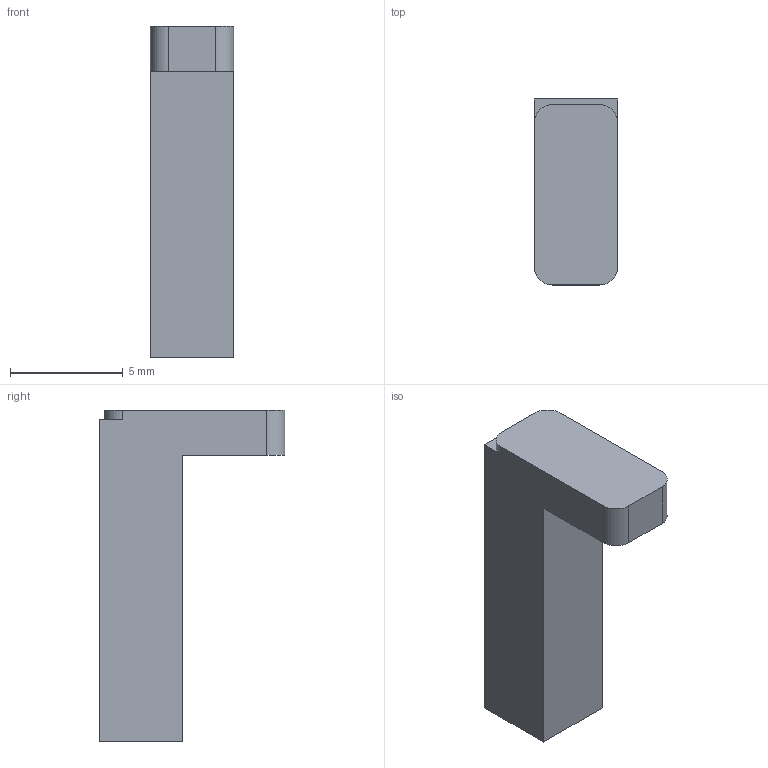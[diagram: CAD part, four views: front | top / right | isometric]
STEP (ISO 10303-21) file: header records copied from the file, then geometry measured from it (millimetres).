
FILE_DESCRIPTION(('Open CASCADE Model'),'2;1');
FILE_NAME('Open CASCADE Shape Model','2026-09-17T20:02:03',('Author'),( 'Open CASCADE'),'Open CASCADE STEP processor 7.7','Open CASCADE 7.7' ,'Unknown');
FILE_SCHEMA(('AUTOMOTIVE_DESIGN { 1 0 10303 214 1 1 1 1 }'));
Length unit declared in the file: millimetre
Products named in the file (1): Open CASCADE STEP translator 7.7 4
Bounding box: 3.7 x 8.25 x 14.7 mm (x, y, z)
Volume: 233.9 mm3; surface area: 294.4 mm2
Topology: 1 solids, 1 shells, 14 faces, 36 edges, 24 vertices
Faces by surface type: plane 10, cylinder 4
Entity records: 908 total; most frequent: CARTESIAN_POINT 163, DIRECTION 140, LINE 88, VECTOR 88, ORIENTED_EDGE 72, PCURVE 72, DEFINITIONAL_REPRESENTATION 72, EDGE_CURVE 36
